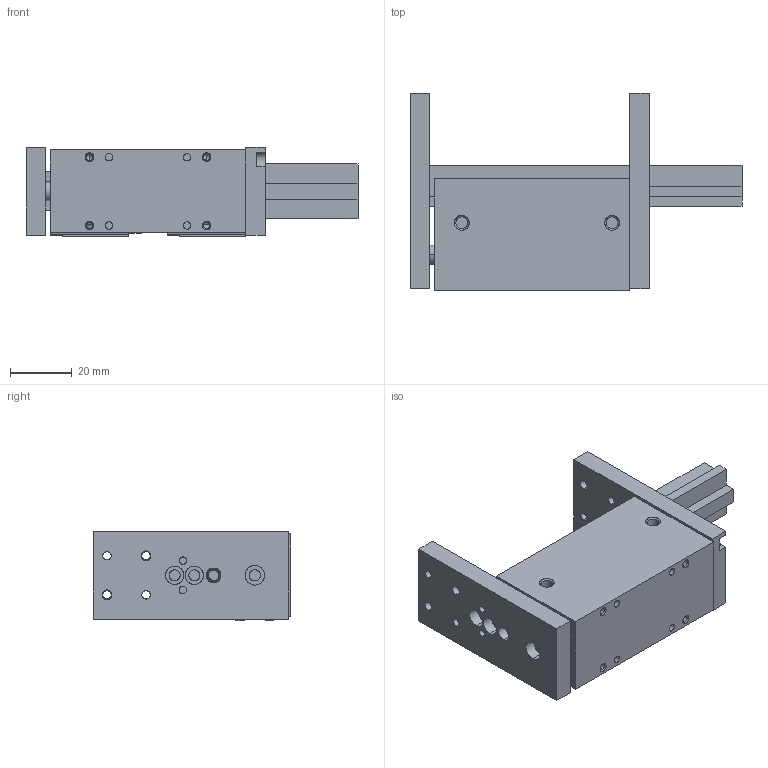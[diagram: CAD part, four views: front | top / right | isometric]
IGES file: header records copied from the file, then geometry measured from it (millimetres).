
Start section: SolidWorks IGES file using analytic representation for surfaces
Global section: file name: C:\Users\jmkuhnes\Pictures\My Transfers\AGPS\AGPS-2-3\AGPS-2-3 CLOSED in MM.IGS; native system: SolidWorks 2013; preprocessor: SolidWorks 2013; author: jmkuhnes; date: 141121.135527; units: millimetre
Bounding box: 107.95 x 64.16 x 29 mm (x, y, z)
Surface area: 34878.9 mm2 (no closed solid volume)
Topology: 0 solids, 0 shells, 299 faces, 5026 edges, 5012 vertices
Faces by surface type: revolution 181, bspline 118
